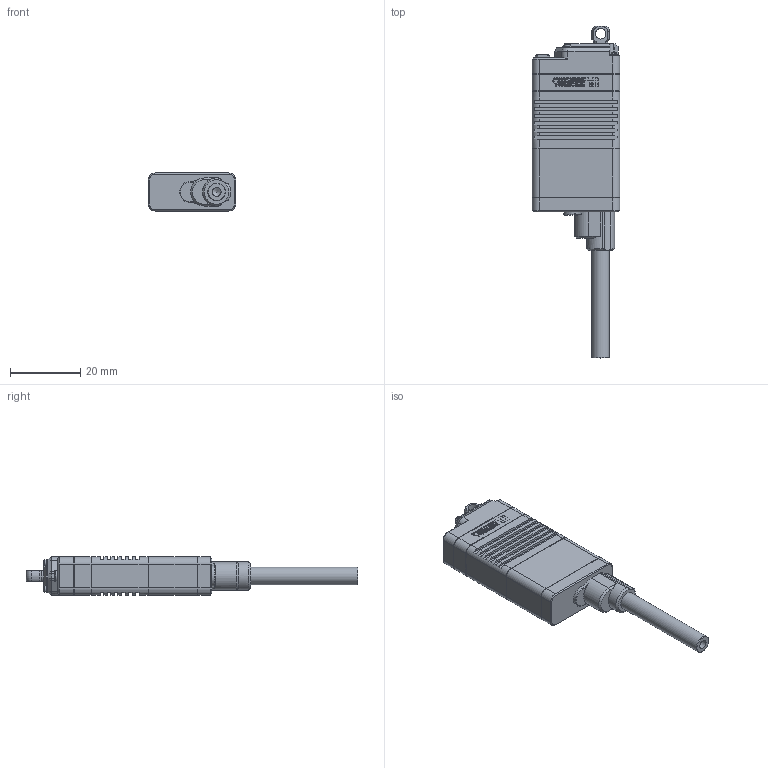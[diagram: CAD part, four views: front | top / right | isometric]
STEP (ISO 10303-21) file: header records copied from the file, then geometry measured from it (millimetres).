
FILE_DESCRIPTION (( 'STEP AP203' ), '1' );
FILE_NAME ('LAS30-0x3D-1201-01.STEP', '2023-12-01T09:40:36', ( '' ), ( '' ), '' );
FILE_SCHEMA (( 'CONFIG_CONTROL_DESIGN' ));
Length unit declared in the file: millimetre
Products named in the file (4): 30芢裝; ACBO-S30; LAS30-0x3D^LAS30-0x3D-ACBO-S30; LAS30-0x3D-1201-01
Assembly tree (3 placements, depth 2):
  LAS30-0x3D-1201-01
    30芢裝
    ACBO-S30
    LAS30-0x3D^LAS30-0x3D-ACBO-S30
Bounding box: 24.8 x 94.2 x 10.82 mm (x, y, z)
Volume: 12772.8 mm3; surface area: 6158.9 mm2
Topology: 3 solids, 3 shells, 1416 faces, 3769 edges, 2466 vertices
Faces by surface type: plane 860, bspline 416, cylinder 74, cone 57, torus 9
Full cylindrical faces by diameter (mm): 1.7 x2, 2.17 x4, 2.2 x4, 2.4 x1, 2.5 x1, 3 x1, 4 x1, 5 x2
Entity records: 46107 total; most frequent: CARTESIAN_POINT 13419, ORIENTED_EDGE 7478, DIRECTION 5129, EDGE_CURVE 3739, LINE 2565, VECTOR 2565, VERTEX_POINT 2456, EDGE_LOOP 1545
